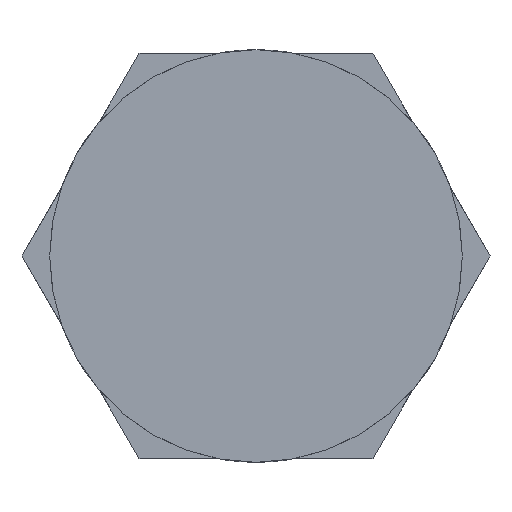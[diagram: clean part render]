
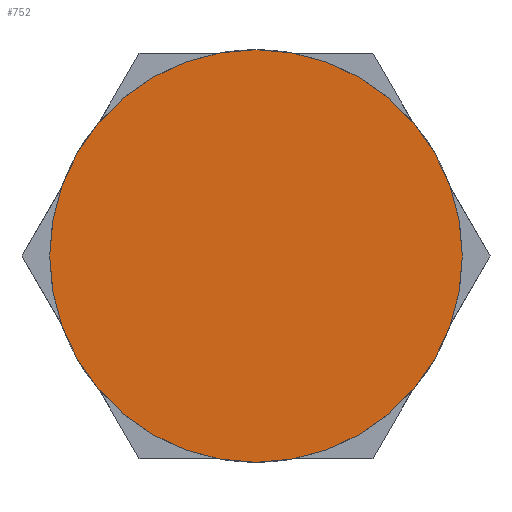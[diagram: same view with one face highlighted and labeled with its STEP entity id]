
A CAD part, left-side view. The second image highlights one B-rep face of the part: STEP entity #752.
In plain terms, the highlighted planar face has unit normal (-1, 0, 0).
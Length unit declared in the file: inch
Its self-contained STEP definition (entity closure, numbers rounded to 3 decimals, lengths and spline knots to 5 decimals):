
#32 = FACE_OUTER_BOUND ( 'NONE', #107, .T. ) ;
#61 = CIRCLE ( 'NONE', #590, 0.7635 ) ;
#65 = VERTEX_POINT ( 'NONE', #130 ) ;
#107 = EDGE_LOOP ( 'NONE', ( #447, #469 ) ) ;
#130 = CARTESIAN_POINT ( 'NONE',  ( -2.949, 0., 0.7635 ) ) ;
#166 = CARTESIAN_POINT ( 'NONE',  ( -2.949, 0., -0.7635 ) ) ;
#219 = VERTEX_POINT ( 'NONE', #166 ) ;
#291 = DIRECTION ( 'NONE',  ( 0., 0., -1. ) ) ;
#293 = DIRECTION ( 'NONE',  ( 1., 0., 0. ) ) ;
#294 = CARTESIAN_POINT ( 'NONE',  ( -2.949, 0., 0. ) ) ;
#315 = DIRECTION ( 'NONE',  ( 0., 0., -1. ) ) ;
#318 = DIRECTION ( 'NONE',  ( 1., 0., 0. ) ) ;
#319 = CARTESIAN_POINT ( 'NONE',  ( -2.949, 0., 0. ) ) ;
#388 = PLANE ( 'NONE',  #532 ) ;
#397 = CARTESIAN_POINT ( 'NONE',  ( -2.949, 0.5, 0. ) ) ;
#401 = DIRECTION ( 'NONE',  ( 0., 0., 1. ) ) ;
#402 = DIRECTION ( 'NONE',  ( -1., 0., 0. ) ) ;
#447 = ORIENTED_EDGE ( 'NONE', *, *, #611, .F. ) ;
#469 = ORIENTED_EDGE ( 'NONE', *, *, #517, .F. ) ;
#517 = EDGE_CURVE ( 'NONE', #65, #219, #61, .T. ) ;
#532 = AXIS2_PLACEMENT_3D ( 'NONE', #397, #402, #401 ) ;
#569 = AXIS2_PLACEMENT_3D ( 'NONE', #294, #293, #291 ) ;
#590 = AXIS2_PLACEMENT_3D ( 'NONE', #319, #318, #315 ) ;
#611 = EDGE_CURVE ( 'NONE', #219, #65, #937, .T. ) ;
#752 = ADVANCED_FACE ( 'NONE', ( #32 ), #388, .T. ) ;
#937 = CIRCLE ( 'NONE', #569, 0.7635 ) ;
